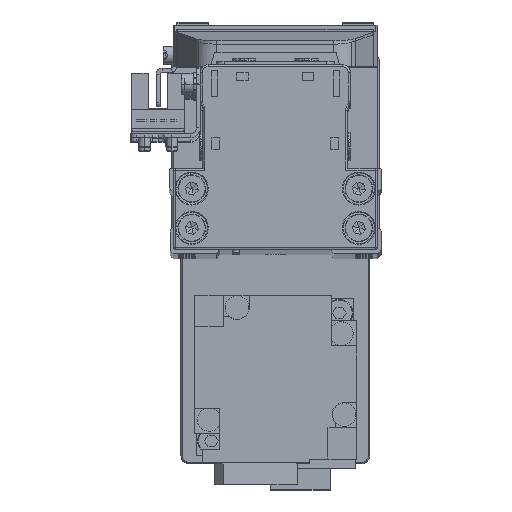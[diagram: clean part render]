
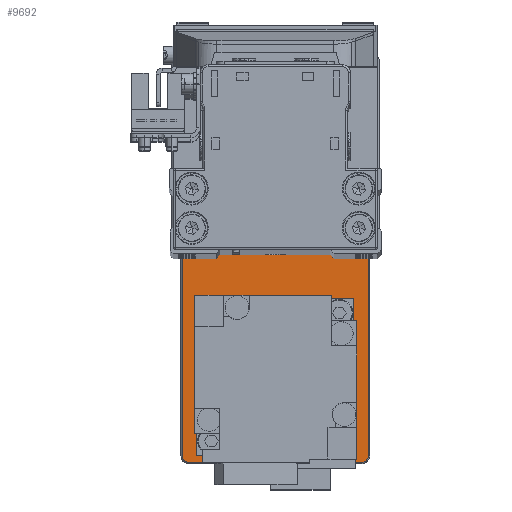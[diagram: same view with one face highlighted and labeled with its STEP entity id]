
A CAD part, top view. The second image highlights one B-rep face of the part: STEP entity #9692.
In plain terms, the highlighted planar face has unit normal (0, 0, 1).
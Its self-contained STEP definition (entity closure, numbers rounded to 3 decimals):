
#495 = FACE_OUTER_BOUND ( 'NONE', #27509, .T. ) ;
#547 = VERTEX_POINT ( 'NONE', #20053 ) ;
#1100 = CARTESIAN_POINT ( 'NONE',  ( 50., 22., 5. ) ) ;
#2225 = VERTEX_POINT ( 'NONE', #37257 ) ;
#2565 = CARTESIAN_POINT ( 'NONE',  ( -28., 0., 5. ) ) ;
#2933 = CARTESIAN_POINT ( 'NONE',  ( 17.2, 0., 5. ) ) ;
#3009 = CARTESIAN_POINT ( 'NONE',  ( 30., 0., 5. ) ) ;
#3154 = VECTOR ( 'NONE', #39890, 1000. ) ;
#3349 = CIRCLE ( 'NONE', #26201, 1.7 ) ;
#3503 = DIRECTION ( 'NONE',  ( 1., 0., 0. ) ) ;
#3554 = AXIS2_PLACEMENT_3D ( 'NONE', #2565, #15026, #27495 ) ;
#3562 = DIRECTION ( 'NONE',  ( 1., 0., 0. ) ) ;
#4881 = ORIENTED_EDGE ( 'NONE', *, *, #24220, .T. ) ;
#5246 = CARTESIAN_POINT ( 'NONE',  ( -50., 23.7, 5. ) ) ;
#5445 = CARTESIAN_POINT ( 'NONE',  ( 51.7, 22., 5. ) ) ;
#5701 = AXIS2_PLACEMENT_3D ( 'NONE', #19029, #31484, #3503 ) ;
#6009 = CARTESIAN_POINT ( 'NONE',  ( 50., -22., 5. ) ) ;
#6733 = VECTOR ( 'NONE', #17715, 1000. ) ;
#6948 = VERTEX_POINT ( 'NONE', #29188 ) ;
#7615 = EDGE_CURVE ( 'NONE', #37558, #27591, #15040, .T. ) ;
#7864 = CARTESIAN_POINT ( 'NONE',  ( 30., 0., 5. ) ) ;
#8892 = EDGE_CURVE ( 'NONE', #27591, #37558, #21142, .T. ) ;
#9628 = CARTESIAN_POINT ( 'NONE',  ( -28., 0., 5. ) ) ;
#9637 = VERTEX_POINT ( 'NONE', #21531 ) ;
#9655 = VERTEX_POINT ( 'NONE', #2933 ) ;
#9662 = DIRECTION ( 'NONE',  ( 0., 0., 1. ) ) ;
#9692 = ADVANCED_FACE ( 'NONE', ( #16003, #28469, #495 ), #12939, .T. ) ;
#9869 = DIRECTION ( 'NONE',  ( 1., 0., 0. ) ) ;
#10218 = ORIENTED_EDGE ( 'NONE', *, *, #38454, .T. ) ;
#10299 = CIRCLE ( 'NONE', #33117, 12.8 ) ;
#11400 = AXIS2_PLACEMENT_3D ( 'NONE', #25420, #37831, #9869 ) ;
#11845 = EDGE_CURVE ( 'NONE', #547, #9655, #34433, .T. ) ;
#12071 = CARTESIAN_POINT ( 'NONE',  ( -38.3, 0., 5. ) ) ;
#12939 = PLANE ( 'NONE',  #11400 ) ;
#13271 = EDGE_CURVE ( 'NONE', #6948, #28241, #33446, .T. ) ;
#13555 = DIRECTION ( 'NONE',  ( 0., 0., 1. ) ) ;
#14786 = EDGE_LOOP ( 'NONE', ( #37618, #29340 ) ) ;
#14983 = CIRCLE ( 'NONE', #37792, 1.7 ) ;
#15007 = LINE ( 'NONE', #27481, #3154 ) ;
#15026 = DIRECTION ( 'NONE',  ( 0., 0., -1. ) ) ;
#15040 = CIRCLE ( 'NONE', #37848, 10.3 ) ;
#15464 = DIRECTION ( 'NONE',  ( 0., 0., -1. ) ) ;
#16003 = FACE_BOUND ( 'NONE', #27650, .T. ) ;
#16043 = AXIS2_PLACEMENT_3D ( 'NONE', #1100, #13555, #26036 ) ;
#16829 = AXIS2_PLACEMENT_3D ( 'NONE', #7864, #20346, #32798 ) ;
#17507 = EDGE_CURVE ( 'NONE', #21116, #6948, #3349, .T. ) ;
#17715 = DIRECTION ( 'NONE',  ( -1., 0., 0. ) ) ;
#17908 = DIRECTION ( 'NONE',  ( 0., 1., 0. ) ) ;
#18471 = DIRECTION ( 'NONE',  ( 0., 0., 1. ) ) ;
#19029 = CARTESIAN_POINT ( 'NONE',  ( -50., 22., 5. ) ) ;
#19084 = LINE ( 'NONE', #31545, #37556 ) ;
#20053 = CARTESIAN_POINT ( 'NONE',  ( 42.8, 0., 5. ) ) ;
#20346 = DIRECTION ( 'NONE',  ( 0., 0., -1. ) ) ;
#20568 = VERTEX_POINT ( 'NONE', #31665 ) ;
#21116 = VERTEX_POINT ( 'NONE', #32628 ) ;
#21142 = CIRCLE ( 'NONE', #3554, 10.3 ) ;
#21531 = CARTESIAN_POINT ( 'NONE',  ( 50., 23.7, 5. ) ) ;
#22109 = DIRECTION ( 'NONE',  ( 0., 0., -1. ) ) ;
#22146 = DIRECTION ( 'NONE',  ( 1., 0., 0. ) ) ;
#22951 = EDGE_CURVE ( 'NONE', #2225, #39639, #23358, .T. ) ;
#23001 = ORIENTED_EDGE ( 'NONE', *, *, #17507, .T. ) ;
#23358 = CIRCLE ( 'NONE', #5701, 1.7 ) ;
#24220 = EDGE_CURVE ( 'NONE', #20568, #21116, #19084, .T. ) ;
#25420 = CARTESIAN_POINT ( 'NONE',  ( 0., 0., 5. ) ) ;
#25450 = EDGE_CURVE ( 'NONE', #28241, #9637, #33634, .T. ) ;
#25530 = ORIENTED_EDGE ( 'NONE', *, *, #13271, .T. ) ;
#25644 = ORIENTED_EDGE ( 'NONE', *, *, #25450, .T. ) ;
#26036 = DIRECTION ( 'NONE',  ( 1., 0., 0. ) ) ;
#26146 = CARTESIAN_POINT ( 'NONE',  ( -17.7, 0., 5. ) ) ;
#26201 = AXIS2_PLACEMENT_3D ( 'NONE', #6009, #18471, #30935 ) ;
#26547 = CARTESIAN_POINT ( 'NONE',  ( -51.7, 22., 5. ) ) ;
#26626 = ORIENTED_EDGE ( 'NONE', *, *, #29282, .T. ) ;
#27349 = VECTOR ( 'NONE', #17908, 1000. ) ;
#27481 = CARTESIAN_POINT ( 'NONE',  ( -51.7, -22., 5. ) ) ;
#27495 = DIRECTION ( 'NONE',  ( 1., 0., 0. ) ) ;
#27509 = EDGE_LOOP ( 'NONE', ( #4881, #23001, #25530, #25644, #10218, #27549, #39085, #26626 ) ) ;
#27549 = ORIENTED_EDGE ( 'NONE', *, *, #22951, .T. ) ;
#27591 = VERTEX_POINT ( 'NONE', #26146 ) ;
#27650 = EDGE_LOOP ( 'NONE', ( #34051, #32963 ) ) ;
#27701 = EDGE_CURVE ( 'NONE', #39639, #38076, #15007, .T. ) ;
#27765 = CARTESIAN_POINT ( 'NONE',  ( -51.7, -22., 5. ) ) ;
#27940 = DIRECTION ( 'NONE',  ( 1., 0., 0. ) ) ;
#28241 = VERTEX_POINT ( 'NONE', #37201 ) ;
#28469 = FACE_BOUND ( 'NONE', #14786, .T. ) ;
#29188 = CARTESIAN_POINT ( 'NONE',  ( 51.7, -22., 5. ) ) ;
#29282 = EDGE_CURVE ( 'NONE', #38076, #20568, #14983, .T. ) ;
#29340 = ORIENTED_EDGE ( 'NONE', *, *, #7615, .T. ) ;
#30935 = DIRECTION ( 'NONE',  ( 1., 0., 0. ) ) ;
#31484 = DIRECTION ( 'NONE',  ( 0., 0., 1. ) ) ;
#31545 = CARTESIAN_POINT ( 'NONE',  ( 50., -23.7, 5. ) ) ;
#31660 = EDGE_CURVE ( 'NONE', #9655, #547, #10299, .T. ) ;
#31665 = CARTESIAN_POINT ( 'NONE',  ( -50., -23.7, 5. ) ) ;
#32628 = CARTESIAN_POINT ( 'NONE',  ( 50., -23.7, 5. ) ) ;
#32798 = DIRECTION ( 'NONE',  ( 1., 0., 0. ) ) ;
#32963 = ORIENTED_EDGE ( 'NONE', *, *, #31660, .T. ) ;
#33117 = AXIS2_PLACEMENT_3D ( 'NONE', #3009, #15464, #27940 ) ;
#33246 = LINE ( 'NONE', #5246, #6733 ) ;
#33446 = LINE ( 'NONE', #5445, #27349 ) ;
#33634 = CIRCLE ( 'NONE', #16043, 1.7 ) ;
#34051 = ORIENTED_EDGE ( 'NONE', *, *, #11845, .T. ) ;
#34433 = CIRCLE ( 'NONE', #16829, 12.8 ) ;
#34563 = DIRECTION ( 'NONE',  ( 1., 0., 0. ) ) ;
#37201 = CARTESIAN_POINT ( 'NONE',  ( 51.7, 22., 5. ) ) ;
#37257 = CARTESIAN_POINT ( 'NONE',  ( -50., 23.7, 5. ) ) ;
#37556 = VECTOR ( 'NONE', #3562, 1000. ) ;
#37558 = VERTEX_POINT ( 'NONE', #12071 ) ;
#37618 = ORIENTED_EDGE ( 'NONE', *, *, #8892, .T. ) ;
#37628 = CARTESIAN_POINT ( 'NONE',  ( -50., -22., 5. ) ) ;
#37792 = AXIS2_PLACEMENT_3D ( 'NONE', #37628, #9662, #22146 ) ;
#37831 = DIRECTION ( 'NONE',  ( 0., 0., 1. ) ) ;
#37848 = AXIS2_PLACEMENT_3D ( 'NONE', #9628, #22109, #34563 ) ;
#38076 = VERTEX_POINT ( 'NONE', #27765 ) ;
#38454 = EDGE_CURVE ( 'NONE', #9637, #2225, #33246, .T. ) ;
#39085 = ORIENTED_EDGE ( 'NONE', *, *, #27701, .T. ) ;
#39639 = VERTEX_POINT ( 'NONE', #26547 ) ;
#39890 = DIRECTION ( 'NONE',  ( 0., -1., 0. ) ) ;
